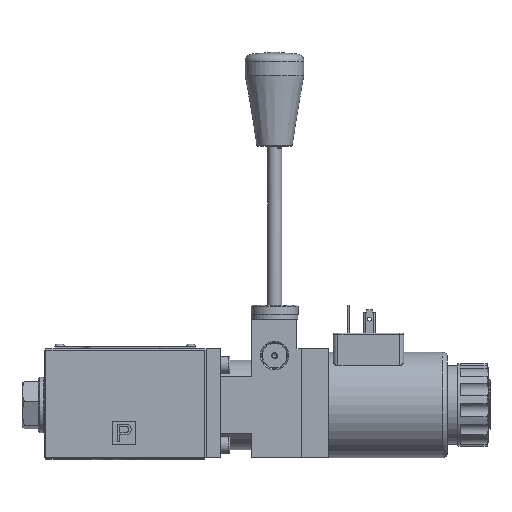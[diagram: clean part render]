
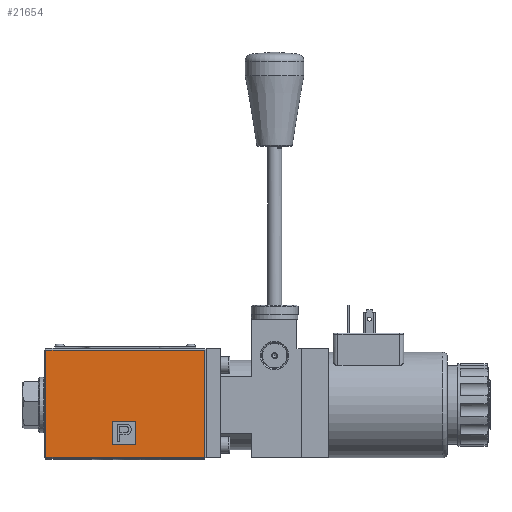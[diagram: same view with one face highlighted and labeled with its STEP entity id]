
A CAD part, top view. The second image highlights one B-rep face of the part: STEP entity #21654.
In plain terms, the highlighted planar face has unit normal (0, 0, 1).
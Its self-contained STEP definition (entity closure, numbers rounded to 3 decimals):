
#1937=PLANE('',#26273);
#4008=EDGE_LOOP('',(#6022,#6023,#6024,#6025));
#4009=EDGE_LOOP('',(#6026,#6027,#6028,#6029));
#6022=ORIENTED_EDGE('',*,*,#12625,.T.);
#6023=ORIENTED_EDGE('',*,*,#12626,.T.);
#6024=ORIENTED_EDGE('',*,*,#12627,.T.);
#6025=ORIENTED_EDGE('',*,*,#12628,.T.);
#6026=ORIENTED_EDGE('',*,*,#12629,.T.);
#6027=ORIENTED_EDGE('',*,*,#12630,.T.);
#6028=ORIENTED_EDGE('',*,*,#12631,.T.);
#6029=ORIENTED_EDGE('',*,*,#12632,.T.);
#12625=EDGE_CURVE('',#24030,#24031,#15820,.T.);
#12626=EDGE_CURVE('',#24031,#24032,#15821,.T.);
#12627=EDGE_CURVE('',#24032,#24033,#15822,.T.);
#12628=EDGE_CURVE('',#24033,#24030,#15823,.T.);
#12629=EDGE_CURVE('',#24034,#24035,#15824,.T.);
#12630=EDGE_CURVE('',#24035,#24036,#15825,.T.);
#12631=EDGE_CURVE('',#24036,#24037,#15826,.T.);
#12632=EDGE_CURVE('',#24037,#24034,#15827,.T.);
#15820=LINE('',#45086,#17967);
#15821=LINE('',#45089,#17968);
#15822=LINE('',#45091,#17969);
#15823=LINE('',#45093,#17970);
#15824=LINE('',#45094,#17971);
#15825=LINE('',#45097,#17972);
#15826=LINE('',#45099,#17973);
#15827=LINE('',#45101,#17974);
#17967=VECTOR('',#28589,1.);
#17968=VECTOR('',#28590,1.);
#17969=VECTOR('',#28591,1.);
#17970=VECTOR('',#28592,1.);
#17971=VECTOR('',#28593,1.);
#17972=VECTOR('',#28594,1.);
#17973=VECTOR('',#28595,1.);
#17974=VECTOR('',#28596,1.);
#21654=ADVANCED_FACE('',(#23155,#23156),#1937,.T.);
#23155=FACE_BOUND('',#4008,.T.);
#23156=FACE_BOUND('',#4009,.T.);
#24030=VERTEX_POINT('',#45087);
#24031=VERTEX_POINT('',#45088);
#24032=VERTEX_POINT('',#45090);
#24033=VERTEX_POINT('',#45092);
#24034=VERTEX_POINT('',#45095);
#24035=VERTEX_POINT('',#45096);
#24036=VERTEX_POINT('',#45098);
#24037=VERTEX_POINT('',#45100);
#26273=AXIS2_PLACEMENT_3D('',#45102,#28597,#28598);
#28589=DIRECTION('',(0.,-1.,0.));
#28590=DIRECTION('',(1.,0.,0.));
#28591=DIRECTION('',(0.,1.,0.));
#28592=DIRECTION('',(-1.,0.,0.));
#28593=DIRECTION('',(0.,1.,0.));
#28594=DIRECTION('',(1.,0.,0.));
#28595=DIRECTION('',(0.,-1.,0.));
#28596=DIRECTION('',(-1.,0.,0.));
#28597=DIRECTION('',(0.,0.,1.));
#28598=DIRECTION('',(-1.,0.,0.));
#45086=CARTESIAN_POINT('',(106.926,172.261,22.));
#45087=CARTESIAN_POINT('',(106.926,195.061,22.));
#45088=CARTESIAN_POINT('',(106.926,149.461,22.));
#45089=CARTESIAN_POINT('',(140.726,149.461,22.));
#45090=CARTESIAN_POINT('',(174.526,149.461,22.));
#45091=CARTESIAN_POINT('',(174.526,195.761,22.));
#45092=CARTESIAN_POINT('',(174.526,195.061,22.));
#45093=CARTESIAN_POINT('',(106.226,195.061,22.));
#45094=CARTESIAN_POINT('',(135.226,154.765,22.));
#45095=CARTESIAN_POINT('',(135.226,154.765,22.));
#45096=CARTESIAN_POINT('',(135.226,164.765,22.));
#45097=CARTESIAN_POINT('',(135.226,164.765,22.));
#45098=CARTESIAN_POINT('',(145.226,164.765,22.));
#45099=CARTESIAN_POINT('',(145.226,164.765,22.));
#45100=CARTESIAN_POINT('',(145.226,154.765,22.));
#45101=CARTESIAN_POINT('',(145.226,154.765,22.));
#45102=CARTESIAN_POINT('',(140.726,172.261,22.));
